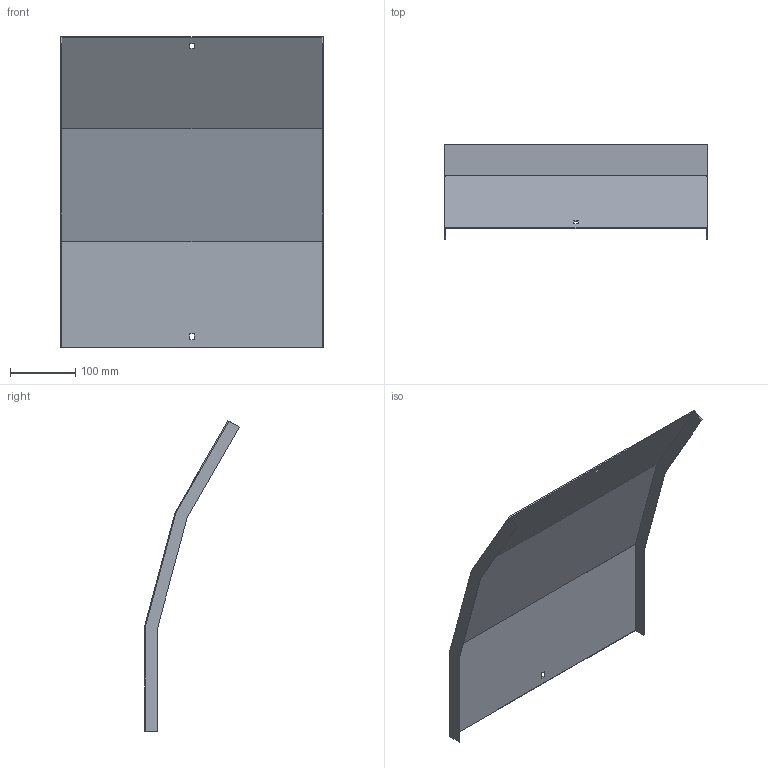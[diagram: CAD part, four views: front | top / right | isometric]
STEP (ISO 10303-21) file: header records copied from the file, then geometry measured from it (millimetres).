
FILE_DESCRIPTION (( 'STEP AP214' ), '1' );
FILE_NAME ('A2_35N3C400.step', '2025-02-21T10:30:14', ( '' ), ( '' ), 'SwSTEP 2.0', 'SolidWorks 2023', '' );
FILE_SCHEMA (( 'AUTOMOTIVE_DESIGN' ));
Length unit declared in the file: millimetre
Products named in the file (1): A2_35N3C400
Bounding box: 403 x 145.29 x 477.6 mm (x, y, z)
Volume: 332922.8 mm3; surface area: 446796.3 mm2
Topology: 1 solids, 1 shells, 26 faces, 72 edges, 48 vertices
Faces by surface type: plane 26
Entity records: 847 total; most frequent: CARTESIAN_POINT 147, ORIENTED_EDGE 144, DIRECTION 126, EDGE_CURVE 72, LINE 72, VECTOR 72, VERTEX_POINT 48, EDGE_LOOP 30
